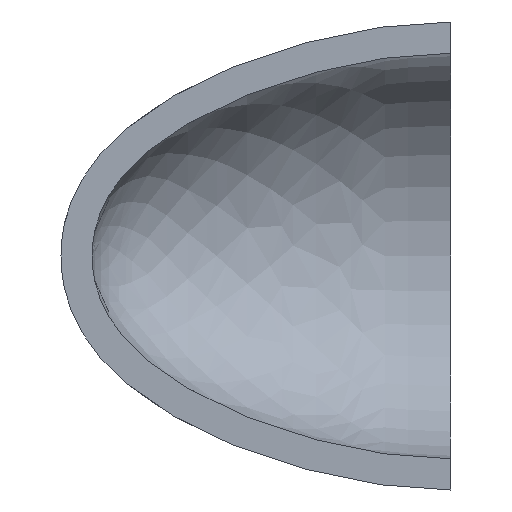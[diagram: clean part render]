
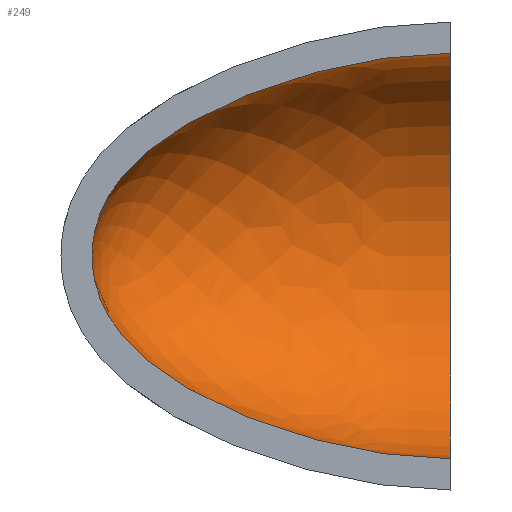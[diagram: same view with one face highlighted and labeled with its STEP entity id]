
A CAD part, left-side view. The second image highlights one B-rep face of the part: STEP entity #249.
In plain terms, the highlighted face is a revolution surface.
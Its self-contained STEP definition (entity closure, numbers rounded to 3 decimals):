
#100=CARTESIAN_POINT('Axis2P3D Location',(0.,0.,0.)) ;
#104=CARTESIAN_POINT('Vertex',(0.,0.,65.)) ;
#106=CARTESIAN_POINT('Vertex',(0.,0.,-65.)) ;
#132=CARTESIAN_POINT('Control Point',(0.,0.,-65.)) ;
#133=CARTESIAN_POINT('Control Point',(0.,3.06,-65.)) ;
#134=CARTESIAN_POINT('Control Point',(0.,6.166,-64.907)) ;
#135=CARTESIAN_POINT('Control Point',(0.,9.313,-64.725)) ;
#136=CARTESIAN_POINT('Control Point',(0.,15.968,-64.163)) ;
#137=CARTESIAN_POINT('Control Point',(0.,22.741,-63.242)) ;
#138=CARTESIAN_POINT('Control Point',(0.,26.301,-62.666)) ;
#139=CARTESIAN_POINT('Control Point',(0.,34.215,-61.191)) ;
#140=CARTESIAN_POINT('Control Point',(0.,42.153,-59.283)) ;
#141=CARTESIAN_POINT('Control Point',(0.,46.499,-58.11)) ;
#142=CARTESIAN_POINT('Control Point',(0.,54.98,-55.561)) ;
#143=CARTESIAN_POINT('Control Point',(0.,63.297,-52.525)) ;
#144=CARTESIAN_POINT('Control Point',(0.,67.321,-50.916)) ;
#145=CARTESIAN_POINT('Control Point',(0.,74.627,-47.715)) ;
#146=CARTESIAN_POINT('Control Point',(0.,81.593,-44.079)) ;
#147=CARTESIAN_POINT('Control Point',(0.,84.706,-42.315)) ;
#148=CARTESIAN_POINT('Control Point',(0.,89.76,-39.185)) ;
#149=CARTESIAN_POINT('Control Point',(0.,94.444,-35.775)) ;
#150=CARTESIAN_POINT('Control Point',(0.,96.274,-34.347)) ;
#151=CARTESIAN_POINT('Control Point',(0.,99.585,-31.56)) ;
#152=CARTESIAN_POINT('Control Point',(0.,102.586,-28.613)) ;
#153=CARTESIAN_POINT('Control Point',(0.,103.924,-27.189)) ;
#154=CARTESIAN_POINT('Control Point',(0.,106.343,-24.381)) ;
#155=CARTESIAN_POINT('Control Point',(0.,108.434,-21.453)) ;
#156=CARTESIAN_POINT('Control Point',(0.,109.36,-20.018)) ;
#157=CARTESIAN_POINT('Control Point',(0.,111.016,-17.146)) ;
#158=CARTESIAN_POINT('Control Point',(0.,112.339,-14.175)) ;
#159=CARTESIAN_POINT('Control Point',(0.,112.907,-12.69)) ;
#160=CARTESIAN_POINT('Control Point',(0.,113.869,-9.698)) ;
#161=CARTESIAN_POINT('Control Point',(0.,114.502,-6.6)) ;
#162=CARTESIAN_POINT('Control Point',(0.,114.736,-5.037)) ;
#163=CARTESIAN_POINT('Control Point',(0.,114.922,-3.09)) ;
#164=CARTESIAN_POINT('Control Point',(0.,114.988,-1.1)) ;
#165=CARTESIAN_POINT('Control Point',(0.,114.996,-0.735)) ;
#166=CARTESIAN_POINT('Control Point',(0.,115.,-0.368)) ;
#167=CARTESIAN_POINT('Control Point',(0.,115.,0.)) ;
#168=CARTESIAN_POINT('Vertex',(0.,115.,0.)) ;
#172=CARTESIAN_POINT('Control Point',(0.,0.,65.)) ;
#173=CARTESIAN_POINT('Control Point',(0.,3.06,65.)) ;
#174=CARTESIAN_POINT('Control Point',(0.,6.166,64.907)) ;
#175=CARTESIAN_POINT('Control Point',(0.,9.313,64.725)) ;
#176=CARTESIAN_POINT('Control Point',(0.,15.968,64.163)) ;
#177=CARTESIAN_POINT('Control Point',(0.,22.741,63.242)) ;
#178=CARTESIAN_POINT('Control Point',(0.,26.301,62.666)) ;
#179=CARTESIAN_POINT('Control Point',(0.,34.215,61.191)) ;
#180=CARTESIAN_POINT('Control Point',(0.,42.153,59.283)) ;
#181=CARTESIAN_POINT('Control Point',(0.,46.499,58.11)) ;
#182=CARTESIAN_POINT('Control Point',(0.,54.98,55.561)) ;
#183=CARTESIAN_POINT('Control Point',(0.,63.297,52.525)) ;
#184=CARTESIAN_POINT('Control Point',(0.,67.321,50.916)) ;
#185=CARTESIAN_POINT('Control Point',(0.,74.627,47.715)) ;
#186=CARTESIAN_POINT('Control Point',(0.,81.593,44.079)) ;
#187=CARTESIAN_POINT('Control Point',(0.,84.706,42.315)) ;
#188=CARTESIAN_POINT('Control Point',(0.,89.76,39.185)) ;
#189=CARTESIAN_POINT('Control Point',(0.,94.444,35.775)) ;
#190=CARTESIAN_POINT('Control Point',(0.,96.274,34.347)) ;
#191=CARTESIAN_POINT('Control Point',(0.,99.585,31.56)) ;
#192=CARTESIAN_POINT('Control Point',(0.,102.586,28.613)) ;
#193=CARTESIAN_POINT('Control Point',(0.,103.924,27.189)) ;
#194=CARTESIAN_POINT('Control Point',(0.,106.343,24.381)) ;
#195=CARTESIAN_POINT('Control Point',(0.,108.434,21.453)) ;
#196=CARTESIAN_POINT('Control Point',(0.,109.36,20.018)) ;
#197=CARTESIAN_POINT('Control Point',(0.,111.016,17.146)) ;
#198=CARTESIAN_POINT('Control Point',(0.,112.339,14.175)) ;
#199=CARTESIAN_POINT('Control Point',(0.,112.907,12.69)) ;
#200=CARTESIAN_POINT('Control Point',(0.,113.869,9.698)) ;
#201=CARTESIAN_POINT('Control Point',(0.,114.502,6.6)) ;
#202=CARTESIAN_POINT('Control Point',(0.,114.736,5.037)) ;
#203=CARTESIAN_POINT('Control Point',(0.,114.922,3.09)) ;
#204=CARTESIAN_POINT('Control Point',(0.,114.988,1.1)) ;
#205=CARTESIAN_POINT('Control Point',(0.,114.996,0.735)) ;
#206=CARTESIAN_POINT('Control Point',(0.,115.,0.368)) ;
#207=CARTESIAN_POINT('Control Point',(0.,115.,0.)) ;
#219=CARTESIAN_POINT('Control Point',(0.,0.,65.)) ;
#220=CARTESIAN_POINT('Control Point',(0.,6.752,65.)) ;
#221=CARTESIAN_POINT('Control Point',(0.,13.916,64.547)) ;
#222=CARTESIAN_POINT('Control Point',(0.,21.492,63.627)) ;
#223=CARTESIAN_POINT('Control Point',(0.,37.205,60.849)) ;
#224=CARTESIAN_POINT('Control Point',(0.,53.356,56.24)) ;
#225=CARTESIAN_POINT('Control Point',(0.,61.367,53.49)) ;
#226=CARTESIAN_POINT('Control Point',(0.,72.948,48.725)) ;
#227=CARTESIAN_POINT('Control Point',(0.,83.373,43.101)) ;
#228=CARTESIAN_POINT('Control Point',(0.,86.692,41.137)) ;
#229=CARTESIAN_POINT('Control Point',(0.,92.961,37.043)) ;
#230=CARTESIAN_POINT('Control Point',(0.,98.403,32.657)) ;
#231=CARTESIAN_POINT('Control Point',(0.,100.893,30.401)) ;
#232=CARTESIAN_POINT('Control Point',(0.,105.378,25.786)) ;
#233=CARTESIAN_POINT('Control Point',(0.,108.849,20.994)) ;
#234=CARTESIAN_POINT('Control Point',(0.,110.325,18.562)) ;
#235=CARTESIAN_POINT('Control Point',(0.,112.774,13.618)) ;
#236=CARTESIAN_POINT('Control Point',(0.,114.245,8.428)) ;
#237=CARTESIAN_POINT('Control Point',(0.,114.743,5.749)) ;
#238=CARTESIAN_POINT('Control Point',(0.,115.,2.947)) ;
#239=CARTESIAN_POINT('Control Point',(0.,115.,0.)) ;
#240=CARTESIAN_POINT('Axis1P Location',(0.,0.,0.)) ;
#101=DIRECTION('Axis2P3D Direction',(0.,1.,0.)) ;
#241=DIRECTION('Axis1P Direction',(0.,1.,0.)) ;
#102=AXIS2_PLACEMENT_3D('Circle Axis2P3D',#100,#101,$) ;
#245=ORIENTED_EDGE('',*,*,#108,.F.) ;
#246=ORIENTED_EDGE('',*,*,#208,.T.) ;
#247=ORIENTED_EDGE('',*,*,#170,.F.) ;
#249=ADVANCED_FACE('PartBody',(#248),#243,.F.) ;
#242=AXIS1_PLACEMENT('Revolution Surface Axis1P',#240,#241) ;
#131=B_SPLINE_CURVE_WITH_KNOTS('',5,(#132,#133,#134,#135,#136,#137,#138,#139,#140,#141,#142,#143,#144,#145,#146,#147,#148,#149,#150,#151,#152,#153,#154,#155,#156,#157,#158,#159,#160,#161,#162,#163,#164,#165,#166,#167),.UNSPECIFIED.,.F.,.U.,(6,3,3,3,3,3,3,3,3,3,3,6),(0.,22.514,47.126,77.028,105.819,130.29,146.961,161.802,175.561,188.866,201.938,204.865),.UNSPECIFIED.) ;
#171=B_SPLINE_CURVE_WITH_KNOTS('',5,(#172,#173,#174,#175,#176,#177,#178,#179,#180,#181,#182,#183,#184,#185,#186,#187,#188,#189,#190,#191,#192,#193,#194,#195,#196,#197,#198,#199,#200,#201,#202,#203,#204,#205,#206,#207),.UNSPECIFIED.,.F.,.U.,(6,3,3,3,3,3,3,3,3,3,3,6),(0.,22.514,47.126,77.028,105.819,130.29,146.961,161.802,175.561,188.866,201.938,204.865),.UNSPECIFIED.) ;
#218=B_SPLINE_CURVE_WITH_KNOTS('',5,(#219,#220,#221,#222,#223,#224,#225,#226,#227,#228,#229,#230,#231,#232,#233,#234,#235,#236,#237,#238,#239),.UNSPECIFIED.,.F.,.U.,(6,3,3,3,3,3,6),(0.,36.443,72.887,91.109,109.33,127.552,145.774),.UNSPECIFIED.) ;
#103=CIRCLE('generated circle',#102,65.) ;
#108=EDGE_CURVE('',#105,#107,#103,.T.) ;
#170=EDGE_CURVE('',#107,#169,#131,.T.) ;
#208=EDGE_CURVE('',#105,#169,#171,.T.) ;
#244=EDGE_LOOP('',(#245,#246,#247)) ;
#248=FACE_OUTER_BOUND('',#244,.T.) ;
#243=SURFACE_OF_REVOLUTION('Surface of Revolution',#218,#242) ;
#105=VERTEX_POINT('',#104) ;
#107=VERTEX_POINT('',#106) ;
#169=VERTEX_POINT('',#168) ;
